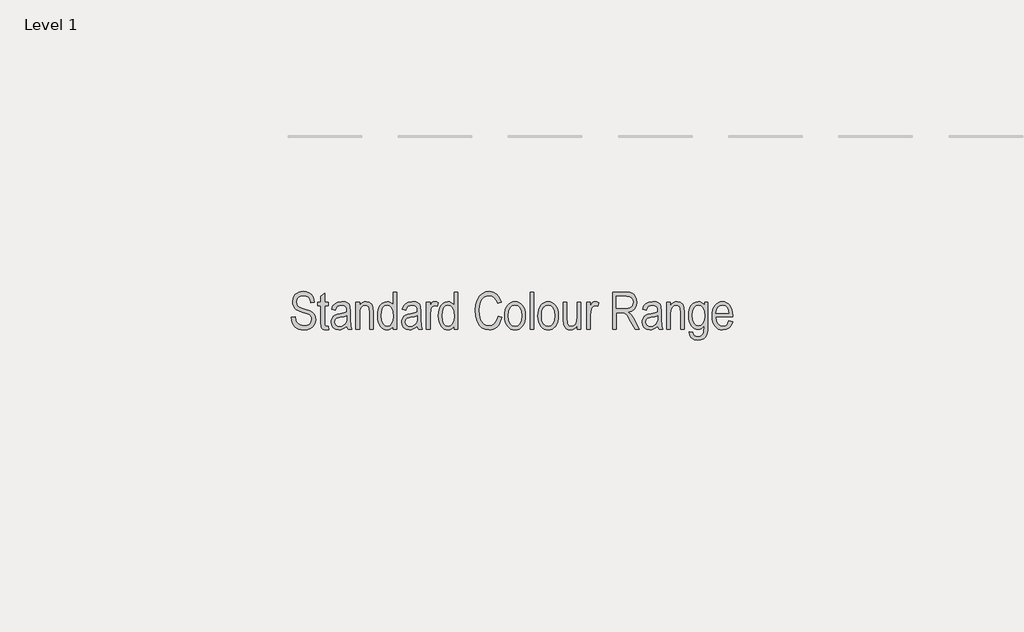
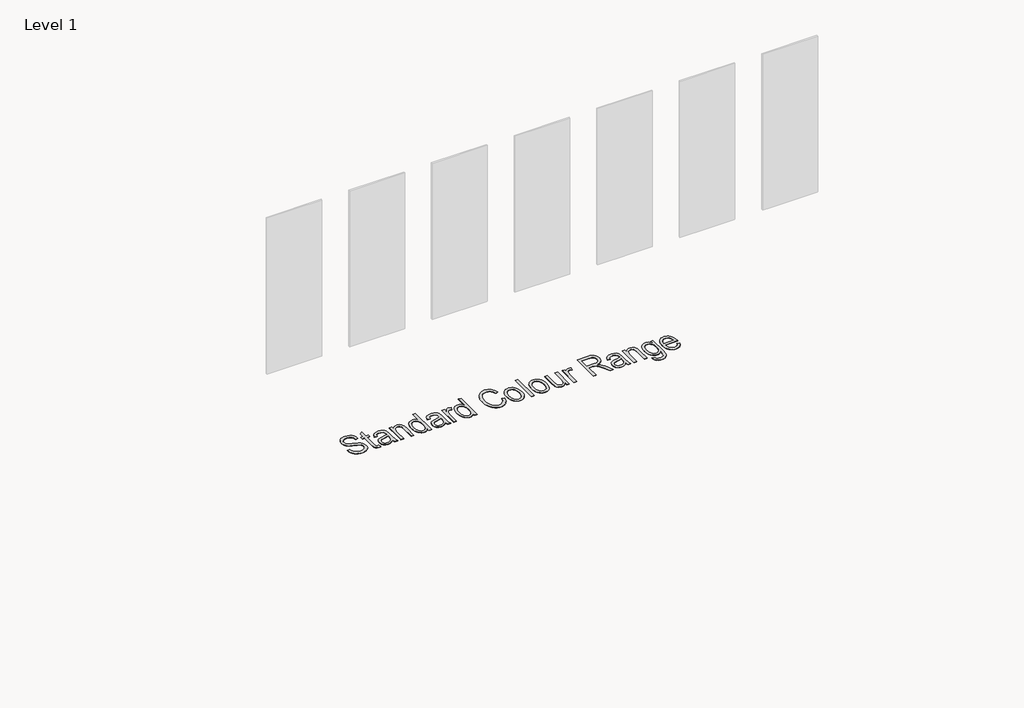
# One storey, part 15 of 21: 1 proxy.
"""IFC4 building model written with IfcOpenShell, lengths in millimetres."""

from ifc_helpers import new_model, si_unit, origin, origin_with_axes, place, context, project, spatial, polyline, outline, extrude, element, save

model = new_model("IFC4")

# Units and contexts
model_context = context("Model", 3, world=origin())
ifc_project = project(units=[si_unit("LENGTHUNIT", "METRE", prefix="MILLI")], contexts=[model_context])

# Site, building, storey
site = spatial("IfcSite", under=ifc_project)
building = spatial("IfcBuilding", under=site)
storey = spatial("IfcBuildingStorey", under=building, Name="Level 1", Elevation=0.0)

# Proxy
placement = place(None, origin())
element("IfcBuildingElementProxy", 1, Name="Arial Narrow-300mm", ObjectType="Arial Narrow-300mm", at=placement, inside=storey, context=model_context, shape_type="SweptSolid", body=[
    extrude(outline(polyline([(-10657.8675708, 16473.1465899), (-10628.334277, 16478.0688055), (-10624.1907712, 16454.5440757), (-10616.8362889, 16436.8837044), (-10605.943964, 16423.5975677), (-10591.1869308, 16413.1955417), (-10573.4592636, 16406.4755637), (-10553.6550366, 16404.235571), (-10527.0154672, 16407.8407094), (-10507.0862621, 16418.6561246), (-10494.6557449, 16435.2397613), (-10490.5122392, 16456.149564), (-10492.0215905, 16468.8204238), (-10496.5496443, 16479.7608172), (-10504.1252418, 16488.9226756), (-10514.7772241, 16496.2579305), (-10567.4218585, 16515.0623324), (-10598.0030459, 16526.0219532), (-10617.7592043, 16536.7508451), (-10630.5069737, 16548.7968142), (-10640.0629939, 16563.7076666), (-10646.0331031, 16581.1180817), (-10648.0231395, 16600.6627387), (-10642.1972358, 16634.3491519), (-10634.9148563, 16648.6543411), (-10624.7195249, 16661.2675187), (-10612.0582788, 16671.563794), (-10597.3781552, 16678.9182763), (-10580.6791541, 16683.3309657), (-10561.9612755, 16684.8018622), (-10536.5138052, 16682.1196392), (-10514.4695856, 16674.0729703), (-10496.4054388, 16661.0175624), (-10482.8981869, 16643.3091226), (-10474.2650821, 16621.5148592), (-10470.8233766, 16596.2019808), (-10500.3566705, 16591.2797651), (-10506.0191412, 16617.4578768), (-10518.0843377, 16635.8488895), (-10536.4368956, 16646.721987), (-10560.9614505, 16650.3463528), (-10585.6975068, 16646.7988966), (-10603.7616536, 16636.156528), (-10614.8077977, 16619.8805298), (-10618.4898457, 16599.4321848), (-10616.1056475, 16580.8777391), (-10608.9530529, 16567.0532351), (-10592.2252107, 16555.7667484), (-10560.9614505, 16544.9801743), (-10507.9707228, 16526.9833234), (-10487.5319914, 16513.6683456), (-10472.8230267, 16497.4115748), (-10463.9399657, 16477.9822822), (-10460.9789454, 16455.149739), (-10464.0168753, 16431.855738), (-10473.1306652, 16410.7344338), (-10487.4646955, 16393.0932899), (-10506.1633467, 16380.2397698), (-10529.1689366, 16372.3949886), (-10556.4237829, 16369.7800616), (-10578.2156429, 16371.5225451), (-10597.67618, 16376.7499958), (-10614.8053942, 16385.4624136), (-10629.6032857, 16397.6597986), (-10641.593976, 16412.8326244), (-10650.301587, 16430.4713649), (-10655.7261186, 16450.5760201), (-10657.8675708, 16473.1465899)])), origin_with_axes(), (0.0, 0.0, 1.0), 5.0),
    extrude(outline(polyline([(-10357.612417, 16399.3133554), (-10352.6902014, 16369.7800616), (-10374.993991, 16369.7800616), (-10389.0299965, 16371.3855499), (-10400.0665269, 16376.2020148), (-10408.1035821, 16383.8064534), (-10413.1411622, 16393.7758628), (-10416.6790047, 16438.1527131), (-10416.6790047, 16566.668687), (-10441.2900828, 16566.668687), (-10441.2900828, 16596.2019808), (-10416.6790047, 16596.2019808), (-10416.6790047, 16645.4241371), (-10387.1457109, 16670.0352153), (-10387.1457109, 16596.2019808), (-10357.612417, 16596.2019808), (-10357.612417, 16566.668687), (-10387.1457109, 16566.668687), (-10387.1457109, 16431.3846666), (-10384.5307838, 16407.1581365), (-10379.1855653, 16401.2745507), (-10370.5332331, 16399.3133554), (-10357.612417, 16399.3133554)])), origin_with_axes(), (0.0, 0.0, 1.0), 5.0),
    extrude(outline(polyline([(-10205.0237324, 16402.2359209), (-10220.6459988, 16388.084551), (-10236.9027696, 16377.9324812), (-10253.7940447, 16371.8181665), (-10271.3198242, 16369.7800616), (-10296.6230889, 16374.0677728), (-10316.2350419, 16386.9309067), (-10328.8097646, 16407.0427721), (-10333.0013389, 16433.0766782), (-10330.9920751, 16451.208121), (-10324.9642836, 16467.1476396), (-10315.456332, 16480.3664804), (-10303.0065873, 16490.3358898), (-10285.4904215, 16497.5942351), (-10260.7832063, 16502.6798837), (-10227.8466619, 16509.486385), (-10205.0237324, 16517.4465306), (-10205.0237324, 16526.9064138), (-10207.1195195, 16546.0184542), (-10213.4068809, 16558.4393577), (-10228.327347, 16568.3030164), (-10249.5544019, 16571.5909026), (-10268.7818068, 16569.5239566), (-10282.471719, 16563.3231185), (-10291.9508296, 16551.4117412), (-10298.5458294, 16532.2131775), (-10328.0791232, 16537.1353932), (-10318.2923742, 16566.0437963), (-10301.8529431, 16585.857637), (-10277.8379144, 16597.3075566), (-10245.3243729, 16601.1241964), (-10219.732697, 16598.4419734), (-10200.3322456, 16590.3953045), (-10187.0364951, 16578.3877902), (-10179.7589224, 16563.8230311), (-10175.4904385, 16517.5234402), (-10175.4904385, 16467.4552781), (-10173.4907884, 16401.2745507), (-10165.6460073, 16374.7022772), (-10195.1793011, 16374.7022772), (-10201.4089802, 16387.3539096), (-10205.0237324, 16402.2359209)]), holes=[polyline([(-10205.0237324, 16487.9132368), (-10227.1160205, 16479.8761816), (-10257.8606408, 16473.1465899), (-10286.3556548, 16465.4171732), (-10298.9688323, 16453.1116341), (-10303.4680451, 16434.7686899), (-10300.8915728, 16420.2423855), (-10293.1621561, 16408.9655126), (-10280.8758444, 16401.7263947), (-10264.6286873, 16399.3133554), (-10248.1123466, 16401.4956658), (-10233.172653, 16408.0425972), (-10220.8094317, 16418.2331217), (-10212.0225077, 16431.3462118), (-10206.7734262, 16449.2565394), (-10205.0237324, 16473.8387765), (-10205.0237324, 16487.9132368)])]), origin_with_axes(), (0.0, 0.0, 1.0), 5.0),
    extrude(outline(polyline([(-10131.1904978, 16374.7022772), (-10131.1904978, 16596.2019808), (-10101.657204, 16596.2019808), (-10101.657204, 16567.5916024), (-10091.1398136, 16582.3101808), (-10078.5074086, 16592.7795027), (-10063.8176713, 16599.038023), (-10047.1282839, 16601.1241964), (-10021.6327451, 16595.3944298), (-10002.7129788, 16580.397054), (-9991.9840869, 16556.3243432), (-9988.4462444, 16510.8323034), (-9988.4462444, 16374.7022772), (-10017.9795382, 16374.7022772), (-10017.9795382, 16511.4475803), (-10022.0172932, 16547.672011), (-10027.1990788, 16557.8240807), (-10034.6689256, 16565.3612234), (-10043.9749895, 16570.0334828), (-10054.6654266, 16571.5909026), (-10073.9505137, 16567.4089421), (-10088.8902072, 16554.8630604), (-10098.4654548, 16532.165109), (-10101.657204, 16497.5269392), (-10101.657204, 16374.7022772), (-10131.1904978, 16374.7022772)])), origin_with_axes(), (0.0, 0.0, 1.0), 5.0),
    extrude(outline(polyline([(-9826.0131285, 16374.7022772), (-9826.0131285, 16401.4668247), (-9835.5018527, 16387.8442084), (-9847.3555478, 16377.8940264), (-9860.9204819, 16371.8085528), (-9875.5429233, 16369.7800616), (-9890.929654, 16371.6763644), (-9905.2492637, 16377.3652728), (-9918.5017525, 16386.8467868), (-9930.6871203, 16400.1209064), (-9940.8824517, 16416.8319246), (-9948.1648313, 16436.6241344), (-9952.5342591, 16459.4975359), (-9953.990735, 16485.452129), (-9951.3565805, 16520.2825728), (-9943.4541171, 16549.4024774), (-9931.1581917, 16572.2830892), (-9915.3436513, 16588.3956544), (-9896.7988193, 16597.9420609), (-9876.3120195, 16601.1241964), (-9861.4876904, 16599.2014559), (-9847.7785507, 16593.4332345), (-9835.7614227, 16584.2233076), (-9826.0131285, 16571.9754507), (-9826.0131285, 16679.8796466), (-9796.4798346, 16679.8796466), (-9796.4798346, 16374.7022772), (-9826.0131285, 16374.7022772)]), holes=[polyline([(-9924.4574412, 16485.2214001), (-9920.7177109, 16447.2280482), (-9909.4985202, 16420.4635007), (-9893.2994316, 16404.6008917), (-9874.6200079, 16399.3133554), (-9856.2386088, 16404.3893902), (-9840.4721369, 16419.6174949), (-9829.6278806, 16445.1130337), (-9826.0131285, 16480.9913711), (-9829.6278806, 16521.8303789), (-9840.4721369, 16549.90239), (-9856.815431, 16566.1687744), (-9876.9272964, 16571.5909026), (-9895.0298981, 16566.3802759), (-9910.4214356, 16550.7483958), (-9920.9484398, 16523.9453934), (-9924.4574412, 16485.2214001)])]), origin_with_axes(), (0.0, 0.0, 1.0), 5.0),
    extrude(outline(polyline([(-9629.1245031, 16402.2359209), (-9644.7467695, 16388.084551), (-9661.0035403, 16377.9324812), (-9677.8948154, 16371.8181665), (-9695.4205949, 16369.7800616), (-9720.7238596, 16374.0677728), (-9740.3358126, 16386.9309067), (-9752.9105353, 16407.0427721), (-9757.1021096, 16433.0766782), (-9755.0928458, 16451.208121), (-9749.0650544, 16467.1476396), (-9739.5571027, 16480.3664804), (-9727.107358, 16490.3358898), (-9709.5911922, 16497.5942351), (-9684.883977, 16502.6798837), (-9651.9474326, 16509.486385), (-9629.1245031, 16517.4465306), (-9629.1245031, 16526.9064138), (-9631.2202902, 16546.0184542), (-9637.5076516, 16558.4393577), (-9652.4281177, 16568.3030164), (-9673.6551726, 16571.5909026), (-9692.8825775, 16569.5239566), (-9706.5724897, 16563.3231185), (-9716.0516003, 16551.4117412), (-9722.6466001, 16532.2131775), (-9752.1798939, 16537.1353932), (-9742.3931449, 16566.0437963), (-9725.9537138, 16585.857637), (-9701.9386851, 16597.3075566), (-9669.4251436, 16601.1241964), (-9643.8334677, 16598.4419734), (-9624.4330163, 16590.3953045), (-9611.1372658, 16578.3877902), (-9603.8596931, 16563.8230311), (-9599.5912092, 16517.5234402), (-9599.5912092, 16467.4552781), (-9597.5915591, 16401.2745507), (-9589.746778, 16374.7022772), (-9619.2800718, 16374.7022772), (-9625.509751, 16387.3539096), (-9629.1245031, 16402.2359209)]), holes=[polyline([(-9629.1245031, 16487.9132368), (-9651.2167912, 16479.8761816), (-9681.9614115, 16473.1465899), (-9710.4564255, 16465.4171732), (-9723.069603, 16453.1116341), (-9727.5688158, 16434.7686899), (-9724.9923435, 16420.2423855), (-9717.2629268, 16408.9655126), (-9704.9766151, 16401.7263947), (-9688.729458, 16399.3133554), (-9672.2131173, 16401.4956658), (-9657.2734237, 16408.0425972), (-9644.9102024, 16418.2331217), (-9636.1232784, 16431.3462118), (-9630.8741969, 16449.2565394), (-9629.1245031, 16473.8387765), (-9629.1245031, 16487.9132368)])]), origin_with_axes(), (0.0, 0.0, 1.0), 5.0),
    extrude(outline(polyline([(-9555.2912685, 16374.7022772), (-9555.2912685, 16596.2019808), (-9525.7579747, 16596.2019808), (-9525.7579747, 16566.8225062), (-9515.8750886, 16584.0887157), (-9506.8382084, 16594.3561499), (-9497.6859637, 16599.4321848), (-9487.4569843, 16601.1241964), (-9472.3057893, 16598.6630886), (-9456.8469558, 16591.2797651), (-9466.6913871, 16561.7464713), (-9489.6104537, 16566.668687), (-9499.2529972, 16564.9093794), (-9508.0303075, 16559.6314568), (-9515.1348336, 16551.2002398), (-9519.7590244, 16539.9810491), (-9525.7579747, 16493.2969102), (-9525.7579747, 16374.7022772), (-9555.2912685, 16374.7022772)])), origin_with_axes(), (0.0, 0.0, 1.0), 5.0),
    extrude(outline(polyline([(-9328.8693493, 16374.7022772), (-9328.8693493, 16401.4668247), (-9338.3580736, 16387.8442084), (-9350.2117687, 16377.8940264), (-9363.7767028, 16371.8085528), (-9378.3991441, 16369.7800616), (-9393.7858749, 16371.6763644), (-9408.1054846, 16377.3652728), (-9421.3579734, 16386.8467868), (-9433.5433412, 16400.1209064), (-9443.7386726, 16416.8319246), (-9451.0210522, 16436.6241344), (-9455.3904799, 16459.4975359), (-9456.8469558, 16485.452129), (-9454.2128014, 16520.2825728), (-9446.310338, 16549.4024774), (-9434.0144126, 16572.2830892), (-9418.1998721, 16588.3956544), (-9399.6550402, 16597.9420609), (-9379.1682403, 16601.1241964), (-9364.3439112, 16599.2014559), (-9350.6347716, 16593.4332345), (-9338.6176436, 16584.2233076), (-9328.8693493, 16571.9754507), (-9328.8693493, 16679.8796466), (-9299.3360555, 16679.8796466), (-9299.3360555, 16374.7022772), (-9328.8693493, 16374.7022772)]), holes=[polyline([(-9427.313662, 16485.2214001), (-9423.5739318, 16447.2280482), (-9412.3547411, 16420.4635007), (-9396.1556525, 16404.6008917), (-9377.4762287, 16399.3133554), (-9359.0948297, 16404.3893902), (-9343.3283578, 16419.6174949), (-9332.4841014, 16445.1130337), (-9328.8693493, 16480.9913711), (-9332.4841014, 16521.8303789), (-9343.3283578, 16549.90239), (-9359.6716519, 16566.1687744), (-9379.7835173, 16571.5909026), (-9397.8861189, 16566.3802759), (-9413.2776565, 16550.7483958), (-9423.8046606, 16523.9453934), (-9427.313662, 16485.2214001)])]), origin_with_axes(), (0.0, 0.0, 1.0), 5.0),
    extrude(outline(polyline([(-8969.547608, 16482.9910212), (-8940.0143142, 16473.1465899), (-8954.8386433, 16427.6833912), (-8965.2935446, 16409.905252), (-8977.7769372, 16395.4294196), (-8992.0100237, 16384.2078255), (-9007.7140065, 16376.1924011), (-9024.8888859, 16371.3831464), (-9043.5346617, 16369.7800616), (-9075.0676056, 16374.0100906), (-9101.6783339, 16386.7001778), (-9123.6360302, 16408.7443974), (-9141.2098782, 16441.0368238), (-9152.7463211, 16481.8277632), (-9156.5918021, 16529.3675216), (-9152.7559348, 16575.7920906), (-9141.248333, 16614.4680154), (-9123.1937999, 16645.0107479), (-9099.7171386, 16667.0357401), (-9072.0008346, 16680.3603317), (-9041.2273732, 16684.8018622), (-9008.3485109, 16679.1778463), (-8980.4687739, 16662.3057986), (-8958.8956257, 16634.5318123), (-8944.9365298, 16596.2019808), (-8974.4698236, 16586.3575495), (-8985.05451, 16614.3526509), (-8999.8884528, 16634.3491519), (-9018.9716521, 16646.3470526), (-9042.3041078, 16650.3463528), (-9065.9826569, 16647.1546036), (-9086.2579552, 16637.579356), (-9102.96657, 16621.2456756), (-9115.9450683, 16597.778628), (-9124.2801483, 16567.1589858), (-9127.0585083, 16529.3675216), (-9125.645294, 16500.055343), (-9121.4056513, 16474.6463275), (-9114.33958, 16453.1404752), (-9104.4470802, 16435.5377861), (-9092.2136439, 16421.843067), (-9078.124763, 16412.0611248), (-9062.1804376, 16406.1919595), (-9044.3806675, 16404.235571), (-9018.5294218, 16409.1193318), (-8996.5044295, 16423.7706143), (-8979.7092914, 16448.3432377), (-8969.547608, 16482.9910212)])), origin_with_axes(), (0.0, 0.0, 1.0), 5.0),
    extrude(outline(polyline([(-8915.403236, 16485.452129), (-8913.9227258, 16512.3440581), (-8909.4811953, 16535.7221789), (-8902.0786444, 16555.5864915), (-8891.7150732, 16571.9369959), (-8879.0826683, 16584.7063961), (-8864.8736161, 16593.8273963), (-8849.0879167, 16599.2999964), (-8831.7255702, 16601.1241964), (-8814.6131799, 16599.2999964), (-8798.9620724, 16593.8273963), (-8784.7722476, 16584.7063961), (-8772.0437056, 16571.9369959), (-8761.5455426, 16555.730697), (-8754.0468547, 16536.299001), (-8749.547642, 16513.6419079), (-8748.0479044, 16487.7594176), (-8749.5212043, 16459.8580497), (-8753.941104, 16435.7589012), (-8761.3076034, 16415.461972), (-8771.6207027, 16398.9672621), (-8784.2170563, 16386.1978619), (-8798.4333187, 16377.0768617), (-8814.26949, 16371.6042616), (-8831.7255702, 16369.7800616), (-8848.9316941, 16371.6090684), (-8864.6332735, 16377.0960891), (-8878.8303086, 16386.2411235), (-8891.5227992, 16399.0441717), (-8901.9704903, 16415.4187103), (-8909.4331268, 16435.2782161), (-8913.9107087, 16458.622689), (-8915.403236, 16485.452129)]), holes=[polyline([(-8885.8699422, 16485.5290386), (-8881.9187105, 16447.4972319), (-8870.0650154, 16420.6173199), (-8852.3661893, 16404.6393465), (-8830.8795644, 16399.3133554), (-8810.5177427, 16404.687415), (-8793.2707605, 16420.809594), (-8781.5035888, 16447.7375744), (-8777.5811982, 16485.5290386), (-8781.5324299, 16523.4454809), (-8793.386125, 16550.2869381), (-8811.0849511, 16566.2649115), (-8832.571576, 16571.5909026), (-8853.0776032, 16566.2360704), (-8870.2957443, 16550.1715736), (-8881.9763927, 16523.3012754), (-8885.8699422, 16485.5290386)])]), origin_with_axes(), (0.0, 0.0, 1.0), 5.0),
    extrude(outline(polyline([(-8708.6701793, 16374.7022772), (-8708.6701793, 16679.8796466), (-8679.1368855, 16679.8796466), (-8679.1368855, 16374.7022772), (-8708.6701793, 16374.7022772)])), origin_with_axes(), (0.0, 0.0, 1.0), 5.0),
    extrude(outline(polyline([(-8644.6813761, 16485.452129), (-8643.2008659, 16512.3440581), (-8638.7593354, 16535.7221789), (-8631.3567845, 16555.5864915), (-8620.9932133, 16571.9369959), (-8608.3608083, 16584.7063961), (-8594.1517562, 16593.8273963), (-8578.3660568, 16599.2999964), (-8561.0037103, 16601.1241964), (-8543.89132, 16599.2999964), (-8528.2402124, 16593.8273963), (-8514.0503877, 16584.7063961), (-8501.3218457, 16571.9369959), (-8490.8236827, 16555.730697), (-8483.3249948, 16536.299001), (-8478.825782, 16513.6419079), (-8477.3260445, 16487.7594176), (-8478.7993444, 16459.8580497), (-8483.219244, 16435.7589012), (-8490.5857435, 16415.461972), (-8500.8988428, 16398.9672621), (-8513.4951964, 16386.1978619), (-8527.7114588, 16377.0768617), (-8543.5476301, 16371.6042616), (-8561.0037103, 16369.7800616), (-8578.2098342, 16371.6090684), (-8593.9114136, 16377.0960891), (-8608.1084487, 16386.2411235), (-8620.8009393, 16399.0441717), (-8631.2486304, 16415.4187103), (-8638.7112669, 16435.2782161), (-8643.1888488, 16458.622689), (-8644.6813761, 16485.452129)]), holes=[polyline([(-8615.1480822, 16485.5290386), (-8611.1968506, 16447.4972319), (-8599.3431555, 16420.6173199), (-8581.6443293, 16404.6393465), (-8560.1577044, 16399.3133554), (-8539.7958827, 16404.687415), (-8522.5489006, 16420.809594), (-8510.7817289, 16447.7375744), (-8506.8593383, 16485.5290386), (-8510.81057, 16523.4454809), (-8522.664265, 16550.2869381), (-8540.3630912, 16566.2649115), (-8561.8497161, 16571.5909026), (-8582.3557433, 16566.2360704), (-8599.5738843, 16550.1715736), (-8611.2545328, 16523.3012754), (-8615.1480822, 16485.5290386)])]), origin_with_axes(), (0.0, 0.0, 1.0), 5.0),
    extrude(outline(polyline([(-8324.7373598, 16374.7022772), (-8324.7373598, 16404.6201191), (-8335.6969805, 16389.4016282), (-8348.4255225, 16378.5093034), (-8362.9229858, 16371.962372), (-8379.1893702, 16369.7800616), (-8398.0129996, 16372.673786), (-8413.8756085, 16381.3549593), (-8425.8735092, 16394.4680494), (-8433.1030134, 16410.6575242), (-8437.9483194, 16458.99522), (-8437.9483194, 16596.2019808), (-8408.4150256, 16596.2019808), (-8408.4150256, 16471.6083975), (-8405.0694571, 16425.1934423), (-8400.291447, 16414.6279833), (-8392.6485536, 16406.3890404), (-8382.9387142, 16401.0822766), (-8371.959866, 16399.3133554), (-8352.3479131, 16403.9087051), (-8336.5814411, 16417.6947544), (-8327.6983801, 16440.1523632), (-8324.7373598, 16475.8384266), (-8324.7373598, 16596.2019808), (-8295.204066, 16596.2019808), (-8295.204066, 16374.7022772), (-8324.7373598, 16374.7022772)])), origin_with_axes(), (0.0, 0.0, 1.0), 5.0),
    extrude(outline(polyline([(-8245.9819096, 16374.7022772), (-8245.9819096, 16596.2019808), (-8216.4486158, 16596.2019808), (-8216.4486158, 16566.8225062), (-8206.5657297, 16584.0887157), (-8197.5288495, 16594.3561499), (-8188.3766048, 16599.4321848), (-8178.1476254, 16601.1241964), (-8162.9964304, 16598.6630886), (-8147.5375969, 16591.2797651), (-8157.3820282, 16561.7464713), (-8180.3010947, 16566.668687), (-8189.9436383, 16564.9093794), (-8198.7209486, 16559.6314568), (-8205.8254746, 16551.2002398), (-8210.4496655, 16539.9810491), (-8216.4486158, 16493.2969102), (-8216.4486158, 16374.7022772), (-8245.9819096, 16374.7022772)])), origin_with_axes(), (0.0, 0.0, 1.0), 5.0),
    extrude(outline(polyline([(-8034.3266373, 16374.7022772), (-8034.3266373, 16679.8796466), (-7925.1149779, 16679.8796466), (-7895.3797963, 16677.764632), (-7874.6238128, 16671.4195884), (-7859.8090974, 16660.1427155), (-7847.8977201, 16643.232213), (-7840.052939, 16621.9378621), (-7837.4380119, 16597.5094443), (-7841.8507013, 16566.5244814), (-7855.0887695, 16542.019154), (-7876.7292137, 16524.6279663), (-7906.3490308, 16514.9854228), (-7882.4301392, 16495.8349276), (-7858.2805187, 16457.1493891), (-7817.7491494, 16374.7022772), (-7850.5126472, 16374.7022772), (-7884.7374278, 16438.5372612), (-7915.193637, 16489.5667936), (-7935.7669602, 16507.8328282), (-7963.6466972, 16512.524315), (-8004.7933435, 16512.524315), (-8004.7933435, 16374.7022772), (-8034.3266373, 16374.7022772)]), holes=[polyline([(-8004.7933435, 16546.9798244), (-7930.8831994, 16546.9798244), (-7909.636917, 16548.3545839), (-7894.197311, 16552.4788622), (-7882.9588928, 16559.5449335), (-7874.3161744, 16569.7450717), (-7868.8075229, 16582.4736137), (-7866.9713057, 16597.1248962), (-7870.4803071, 16617.2463754), (-7881.0073112, 16632.5417759), (-7898.4561811, 16642.2035468), (-7922.7307797, 16645.4241371), (-8004.7933435, 16645.4241371), (-8004.7933435, 16546.9798244)])]), origin_with_axes(), (0.0, 0.0, 1.0), 5.0),
    extrude(outline(polyline([(-7665.1604647, 16402.2359209), (-7680.7827311, 16388.084551), (-7697.0395019, 16377.9324812), (-7713.930777, 16371.8181665), (-7731.4565565, 16369.7800616), (-7756.7598213, 16374.0677728), (-7776.3717742, 16386.9309067), (-7788.9464969, 16407.0427721), (-7793.1380712, 16433.0766782), (-7791.1288074, 16451.208121), (-7785.101016, 16467.1476396), (-7775.5930643, 16480.3664804), (-7763.1433197, 16490.3358898), (-7745.6271539, 16497.5942351), (-7720.9199387, 16502.6798837), (-7687.9833942, 16509.486385), (-7665.1604647, 16517.4465306), (-7665.1604647, 16526.9064138), (-7667.2562518, 16546.0184542), (-7673.5436132, 16558.4393577), (-7688.4640793, 16568.3030164), (-7709.6911343, 16571.5909026), (-7728.9185391, 16569.5239566), (-7742.6084513, 16563.3231185), (-7752.0875619, 16551.4117412), (-7758.6825618, 16532.2131775), (-7788.2158556, 16537.1353932), (-7778.4291065, 16566.0437963), (-7761.9896754, 16585.857637), (-7737.9746468, 16597.3075566), (-7705.4611052, 16601.1241964), (-7679.8694294, 16598.4419734), (-7660.4689779, 16590.3953045), (-7647.1732275, 16578.3877902), (-7639.8956547, 16563.8230311), (-7635.6271709, 16517.5234402), (-7635.6271709, 16467.4552781), (-7633.6275208, 16401.2745507), (-7625.7827396, 16374.7022772), (-7655.3160334, 16374.7022772), (-7661.5457126, 16387.3539096), (-7665.1604647, 16402.2359209)]), holes=[polyline([(-7665.1604647, 16487.9132368), (-7687.2527528, 16479.8761816), (-7717.9973731, 16473.1465899), (-7746.4923871, 16465.4171732), (-7759.1055647, 16453.1116341), (-7763.6047774, 16434.7686899), (-7761.0283051, 16420.2423855), (-7753.2988884, 16408.9655126), (-7741.0125767, 16401.7263947), (-7724.7654196, 16399.3133554), (-7708.2490789, 16401.4956658), (-7693.3093853, 16408.0425972), (-7680.946164, 16418.2331217), (-7672.15924, 16431.3462118), (-7666.9101585, 16449.2565394), (-7665.1604647, 16473.8387765), (-7665.1604647, 16487.9132368)])]), origin_with_axes(), (0.0, 0.0, 1.0), 5.0),
    extrude(outline(polyline([(-7591.3272302, 16374.7022772), (-7591.3272302, 16596.2019808), (-7561.7939363, 16596.2019808), (-7561.7939363, 16567.5916024), (-7551.2765459, 16582.3101808), (-7538.6441409, 16592.7795027), (-7523.9544037, 16599.038023), (-7507.2650163, 16601.1241964), (-7481.7694775, 16595.3944298), (-7462.8497111, 16580.397054), (-7452.1208192, 16556.3243432), (-7448.5829767, 16510.8323034), (-7448.5829767, 16374.7022772), (-7478.1162706, 16374.7022772), (-7478.1162706, 16511.4475803), (-7482.1540256, 16547.672011), (-7487.3358112, 16557.8240807), (-7494.8056579, 16565.3612234), (-7504.1117219, 16570.0334828), (-7514.802159, 16571.5909026), (-7534.087246, 16567.4089421), (-7549.0269395, 16554.8630604), (-7558.6021871, 16532.165109), (-7561.7939363, 16497.5269392), (-7561.7939363, 16374.7022772), (-7591.3272302, 16374.7022772)])), origin_with_axes(), (0.0, 0.0, 1.0), 5.0),
    extrude(outline(polyline([(-7409.2052517, 16355.0134147), (-7379.6719579, 16350.091199), (-7375.4803836, 16334.8727081), (-7367.0587803, 16324.1342025), (-7354.4840575, 16317.7603178), (-7337.833125, 16315.6356896), (-7319.5286356, 16318.0295015), (-7305.3772656, 16325.2109372), (-7295.2251959, 16337.1223145), (-7288.9186071, 16353.7059511), (-7286.1498608, 16402.2359209), (-7296.6960923, 16390.2380203), (-7308.4921052, 16381.6241429), (-7321.5955816, 16376.4327436), (-7336.0642037, 16374.7022772), (-7351.527844, 16376.4231299), (-7365.6167249, 16381.5856881), (-7378.3308464, 16390.1899518), (-7389.6702084, 16402.2359209), (-7400.3702591, 16419.420414), (-7408.0131526, 16439.28713), (-7412.5988886, 16461.836069), (-7414.1274673, 16487.067231), (-7411.3875621, 16520.503688), (-7403.1678465, 16549.4409322), (-7390.4969868, 16572.581114), (-7374.4036489, 16588.6263833), (-7355.5319511, 16597.9997431), (-7334.5260113, 16601.1241964), (-7319.0094956, 16599.2399107), (-7304.9158079, 16593.5870537), (-7292.3026303, 16584.1656254), (-7281.2276452, 16570.9756256), (-7281.2276452, 16596.2019808), (-7256.616567, 16596.2019808), (-7256.616567, 16405.5430345), (-7258.683513, 16361.9352804), (-7264.8843511, 16332.9403539), (-7275.7862896, 16313.5302888), (-7291.956537, 16298.6771185), (-7312.6740657, 16289.2460765), (-7337.217848, 16286.1023958), (-7368.1643561, 16290.6689044), (-7391.0161267, 16304.3684304), (-7404.9656089, 16326.1626937), (-7409.2052517, 16355.0134147)]), holes=[polyline([(-7384.5941735, 16489.3745196), (-7380.864057, 16450.9966195), (-7369.6737073, 16424.6166201), (-7353.080457, 16409.3308333), (-7333.1416382, 16404.235571), (-7313.1451372, 16409.2250826), (-7296.3788402, 16424.1936172), (-7285.0154439, 16450.044863), (-7281.2276452, 16487.6825079), (-7285.1211946, 16524.7529444), (-7296.8018431, 16550.902215), (-7314.0392115, 16566.4187307), (-7334.6029209, 16571.5909026), (-7353.3015721, 16566.4187307), (-7369.5583429, 16550.902215), (-7380.8352158, 16525.1759474), (-7384.5941735, 16489.3745196)])]), origin_with_axes(), (0.0, 0.0, 1.0), 5.0),
    extrude(outline(polyline([(-7084.3390198, 16443.6132961), (-7054.8057259, 16438.6910805), (-7066.015303, 16408.7347837), (-7083.6468332, 16387.1616355), (-7106.9889026, 16374.1254551), (-7135.3300973, 16369.7800616), (-7153.8220539, 16371.6090684), (-7170.458566, 16377.0960891), (-7185.2396334, 16386.2411235), (-7198.1652563, 16399.0441717), (-7208.6634193, 16415.3033459), (-7216.1621072, 16434.8167584), (-7220.66132, 16457.5844091), (-7222.1610575, 16483.6062981), (-7220.6541097, 16510.5559094), (-7216.1332661, 16534.1070769), (-7208.5985269, 16554.2598006), (-7198.0498919, 16571.0140805), (-7185.1939683, 16584.1872562), (-7170.7373633, 16593.5966674), (-7154.6800769, 16599.2423142), (-7137.022109, 16601.1241964), (-7120.1043962, 16599.3072067), (-7104.6527729, 16593.8562374), (-7090.6672394, 16584.7712886), (-7078.1477954, 16572.0523603), (-7067.8346961, 16555.8917266), (-7060.4681967, 16536.4816614), (-7056.048297, 16513.8221648), (-7054.5749971, 16487.9132368), (-7054.8057259, 16478.0688055), (-7192.6277637, 16478.0688055), (-7187.0806574, 16443.8055701), (-7174.4386388, 16419.1560372), (-7156.470629, 16404.2740258), (-7134.9455493, 16399.3133554), (-7118.1407974, 16402.0821017), (-7104.1047919, 16410.3883406), (-7092.8375327, 16424.232072), (-7084.3390198, 16443.6132961)]), holes=[polyline([(-7190.6281136, 16507.6020993), (-7084.3390198, 16507.6020993), (-7088.6459584, 16532.8669093), (-7097.2598358, 16550.8253054), (-7114.9105934, 16566.3995033), (-7136.7913801, 16571.5909026), (-7156.8840182, 16567.2647365), (-7173.784907, 16554.2862383), (-7185.6482158, 16533.9628714), (-7190.6281136, 16507.6020993)])]), origin_with_axes(), (0.0, 0.0, 1.0), 5.0),
])

save(model, "model.ifc")
